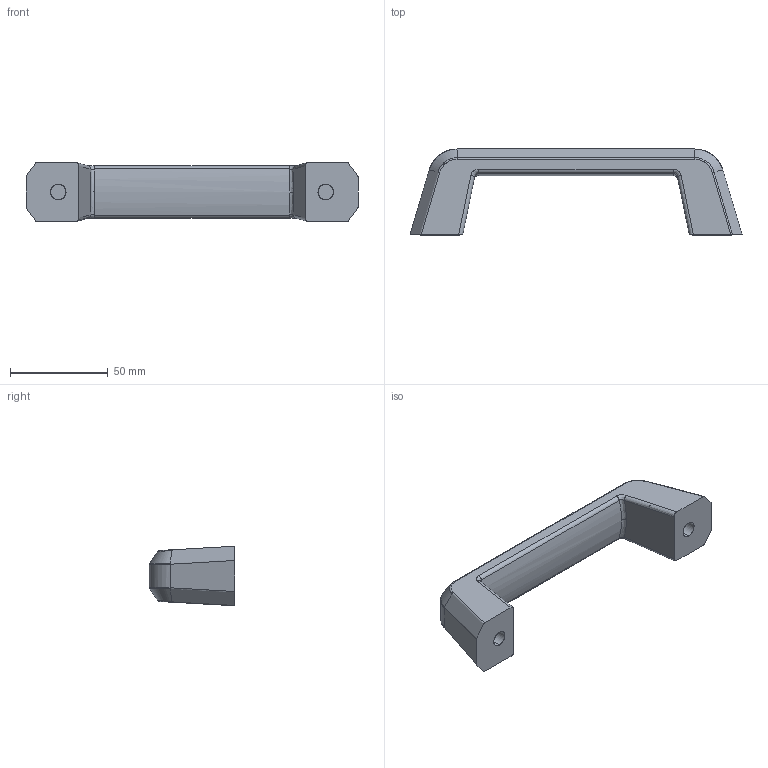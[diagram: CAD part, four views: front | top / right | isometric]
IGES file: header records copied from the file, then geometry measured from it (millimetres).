
Start section: SolidWorks IGES file using analytic representation for surfaces
Global section: file name: C:\Documents and Settings\ARGE\Desktop\yeni katalog tolgay düzenli\B kataloðu\252 bakalit kapak kolu\export\252 000 020.IGS; native system: SolidWorks 2006 by SolidWorks Corporation; preprocessor: SolidWorks 2006 by SolidWorks Corporation; author: ARGE2; date: 060911.134347; units: millimetre
Bounding box: 170 x 44 x 30.5 mm (x, y, z)
Surface area: 18118.6 mm2 (no closed solid volume)
Topology: 0 solids, 0 shells, 62 faces, 845 edges, 845 vertices
Faces by surface type: bspline 36, revolution 26
